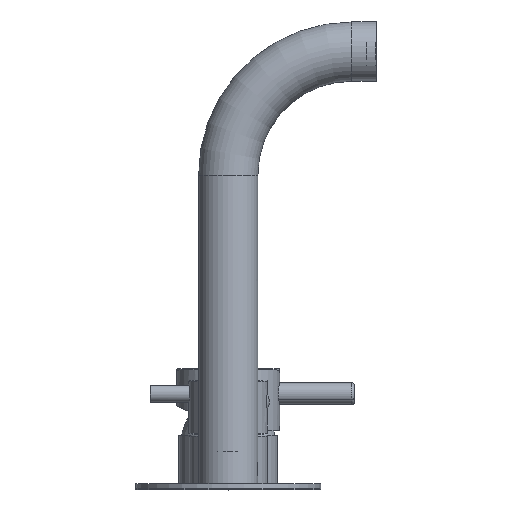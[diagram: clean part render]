
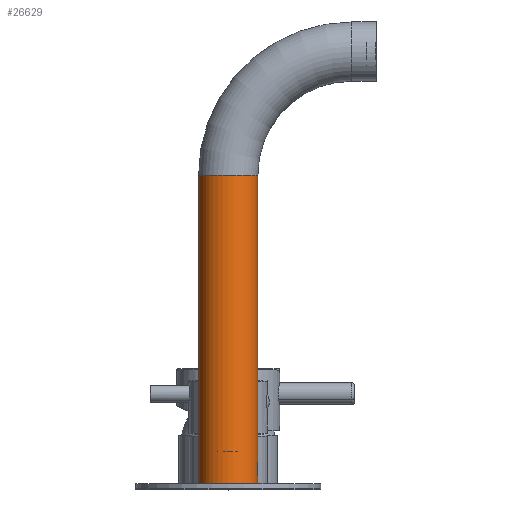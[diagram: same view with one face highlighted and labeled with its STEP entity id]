
A CAD part, top view. The second image highlights one B-rep face of the part: STEP entity #26629.
In plain terms, the highlighted cylindrical face has radius 12 mm (diameter 24 mm), a partial arc.
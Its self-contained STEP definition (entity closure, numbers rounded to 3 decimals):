
#19442=DIRECTION('',(0.,1.,0.));
#19443=VECTOR('',#19442,3.4);
#19444=CARTESIAN_POINT('',(12.,77.,110.));
#19445=LINE('',#19444,#19443);
#19503=DIRECTION('',(0.,1.,0.));
#19504=VECTOR('',#19503,116.4);
#19505=CARTESIAN_POINT('',(12.,85.6,110.));
#19506=LINE('',#19505,#19504);
#19535=CARTESIAN_POINT('',(0.,77.,110.));
#19536=DIRECTION('',(0.,1.,0.));
#19537=DIRECTION('',(-1.,0.,0.));
#19538=AXIS2_PLACEMENT_3D('',#19535,#19536,#19537);
#19540=DIRECTION('',(0.,1.,0.));
#19541=VECTOR('',#19540,125.);
#19542=CARTESIAN_POINT('',(-12.,77.,110.));
#19543=LINE('',#19542,#19541);
#19544=CARTESIAN_POINT('',(12.,80.4,110.));
#19545=CARTESIAN_POINT('',(12.,80.4,110.044));
#19546=CARTESIAN_POINT('',(12.,80.403,110.131));
#19547=CARTESIAN_POINT('',(11.997,80.415,110.261));
#19548=CARTESIAN_POINT('',(11.994,80.435,110.391));
#19549=CARTESIAN_POINT('',(11.989,80.463,110.521));
#19550=CARTESIAN_POINT('',(11.983,80.499,110.649));
#19551=CARTESIAN_POINT('',(11.975,80.543,110.776));
#19552=CARTESIAN_POINT('',(11.966,80.596,110.901));
#19553=CARTESIAN_POINT('',(11.956,80.657,111.025));
#19554=CARTESIAN_POINT('',(11.945,80.726,111.146));
#19555=CARTESIAN_POINT('',(11.933,80.803,111.264));
#19556=CARTESIAN_POINT('',(11.921,80.888,111.379));
#19557=CARTESIAN_POINT('',(11.907,80.982,111.49));
#19558=CARTESIAN_POINT('',(11.893,81.083,111.597));
#19559=CARTESIAN_POINT('',(11.879,81.192,111.698));
#19560=CARTESIAN_POINT('',(11.865,81.308,111.795));
#19561=CARTESIAN_POINT('',(11.851,81.431,111.885));
#19562=CARTESIAN_POINT('',(11.838,81.56,111.969));
#19563=CARTESIAN_POINT('',(11.824,81.695,112.045));
#19564=CARTESIAN_POINT('',(11.812,81.836,112.115));
#19565=CARTESIAN_POINT('',(11.801,81.981,112.176));
#19566=CARTESIAN_POINT('',(11.791,82.131,112.23));
#19567=CARTESIAN_POINT('',(11.783,82.284,112.274));
#19568=CARTESIAN_POINT('',(11.775,82.44,112.31));
#19569=CARTESIAN_POINT('',(11.77,82.599,112.338));
#19570=CARTESIAN_POINT('',(11.766,82.759,112.356));
#19571=CARTESIAN_POINT('',(11.765,82.92,112.365));
#19572=CARTESIAN_POINT('',(11.765,83.081,112.365));
#19573=CARTESIAN_POINT('',(11.766,83.241,112.356));
#19574=CARTESIAN_POINT('',(11.77,83.401,112.338));
#19575=CARTESIAN_POINT('',(11.775,83.56,112.31));
#19576=CARTESIAN_POINT('',(11.783,83.716,112.274));
#19577=CARTESIAN_POINT('',(11.791,83.869,112.23));
#19578=CARTESIAN_POINT('',(11.801,84.019,112.176));
#19579=CARTESIAN_POINT('',(11.812,84.164,112.115));
#19580=CARTESIAN_POINT('',(11.824,84.305,112.045));
#19581=CARTESIAN_POINT('',(11.838,84.44,111.969));
#19582=CARTESIAN_POINT('',(11.851,84.569,111.885));
#19583=CARTESIAN_POINT('',(11.865,84.692,111.795));
#19584=CARTESIAN_POINT('',(11.879,84.808,111.698));
#19585=CARTESIAN_POINT('',(11.893,84.917,111.597));
#19586=CARTESIAN_POINT('',(11.907,85.018,111.49));
#19587=CARTESIAN_POINT('',(11.921,85.112,111.379));
#19588=CARTESIAN_POINT('',(11.933,85.197,111.264));
#19589=CARTESIAN_POINT('',(11.945,85.274,111.146));
#19590=CARTESIAN_POINT('',(11.956,85.343,111.025));
#19591=CARTESIAN_POINT('',(11.966,85.404,110.901));
#19592=CARTESIAN_POINT('',(11.975,85.457,110.776));
#19593=CARTESIAN_POINT('',(11.983,85.501,110.649));
#19594=CARTESIAN_POINT('',(11.989,85.537,110.521));
#19595=CARTESIAN_POINT('',(11.994,85.565,110.391));
#19596=CARTESIAN_POINT('',(11.997,85.585,110.261));
#19597=CARTESIAN_POINT('',(12.,85.597,110.131));
#19598=CARTESIAN_POINT('',(12.,85.6,110.044));
#19599=CARTESIAN_POINT('',(12.,85.6,110.));
#19601=CARTESIAN_POINT('',(0.,202.,110.));
#19602=DIRECTION('',(0.,1.,0.));
#19603=DIRECTION('',(-1.,0.,0.));
#19604=AXIS2_PLACEMENT_3D('',#19601,#19602,#19603);
#20195=CARTESIAN_POINT('',(-12.,202.,110.));
#20196=CARTESIAN_POINT('',(12.,202.,110.));
#20197=VERTEX_POINT('',#20195);
#20198=VERTEX_POINT('',#20196);
#20294=VERTEX_POINT('',#19544);
#20295=VERTEX_POINT('',#19599);
#20442=CARTESIAN_POINT('',(-12.,77.,110.));
#20443=CARTESIAN_POINT('',(12.,77.,110.));
#20444=VERTEX_POINT('',#20442);
#20445=VERTEX_POINT('',#20443);
#26615=CARTESIAN_POINT('',(0.,77.,110.));
#26616=DIRECTION('',(0.,1.,0.));
#26617=DIRECTION('',(-1.,0.,0.));
#26618=AXIS2_PLACEMENT_3D('',#26615,#26616,#26617);
#26619=CYLINDRICAL_SURFACE('',#26618,12.);
#26620=ORIENTED_EDGE('',*,*,#26571,.F.);
#26621=ORIENTED_EDGE('',*,*,#26555,.T.);
#26623=ORIENTED_EDGE('',*,*,#26622,.T.);
#26624=ORIENTED_EDGE('',*,*,#26551,.F.);
#26625=ORIENTED_EDGE('',*,*,#21235,.F.);
#26626=ORIENTED_EDGE('',*,*,#26548,.F.);
#26627=EDGE_LOOP('',(#26620,#26621,#26623,#26624,#26625,#26626));
#26628=FACE_OUTER_BOUND('',#26627,.F.);
#26629=ADVANCED_FACE('',(#26628),#26619,.T.);
#19539=CIRCLE('',#19538,12.);
#19600=B_SPLINE_CURVE_WITH_KNOTS('',3,(#19544,#19545,#19546,#19547,#19548,
#19549,#19550,#19551,#19552,#19553,#19554,#19555,#19556,#19557,#19558,#19559,
#19560,#19561,#19562,#19563,#19564,#19565,#19566,#19567,#19568,#19569,#19570,
#19571,#19572,#19573,#19574,#19575,#19576,#19577,#19578,#19579,#19580,#19581,
#19582,#19583,#19584,#19585,#19586,#19587,#19588,#19589,#19590,#19591,#19592,
#19593,#19594,#19595,#19596,#19597,#19598,#19599),.UNSPECIFIED.,.F.,.F.,(4,1,1,
1,1,1,1,1,1,1,1,1,1,1,1,1,1,1,1,1,1,1,1,1,1,1,1,1,1,1,1,1,1,1,1,1,1,1,1,1,1,1,1,
1,1,1,1,1,1,1,1,1,1,4),(0.,0.019,0.038,
0.057,0.075,0.094,0.113,
0.132,0.151,0.17,0.189,
0.208,0.226,0.245,0.264,
0.283,0.302,0.321,0.34,
0.358,0.377,0.396,0.415,
0.434,0.453,0.472,0.491,
0.509,0.528,0.547,0.566,
0.585,0.604,0.623,0.642,
0.66,0.679,0.698,0.717,
0.736,0.755,0.774,0.792,
0.811,0.83,0.849,0.868,
0.887,0.906,0.925,0.943,
0.962,0.981,1.),.UNSPECIFIED.);
#19605=CIRCLE('',#19604,12.);
#21235=EDGE_CURVE('',#20294,#20295,#19600,.T.);
#26548=EDGE_CURVE('',#20445,#20294,#19445,.T.);
#26551=EDGE_CURVE('',#20295,#20198,#19506,.T.);
#26555=EDGE_CURVE('',#20444,#20197,#19543,.T.);
#26571=EDGE_CURVE('',#20444,#20445,#19539,.T.);
#26622=EDGE_CURVE('',#20197,#20198,#19605,.T.);
